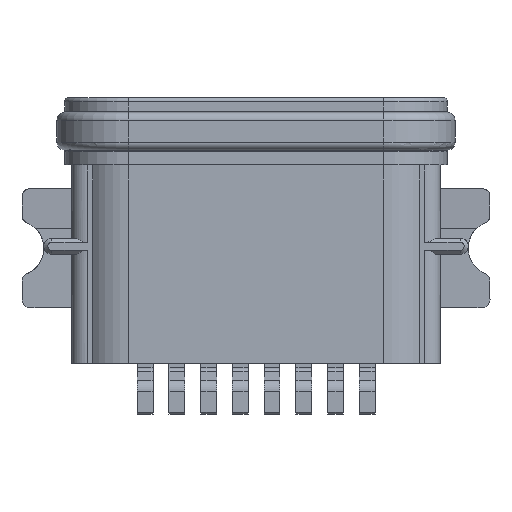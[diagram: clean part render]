
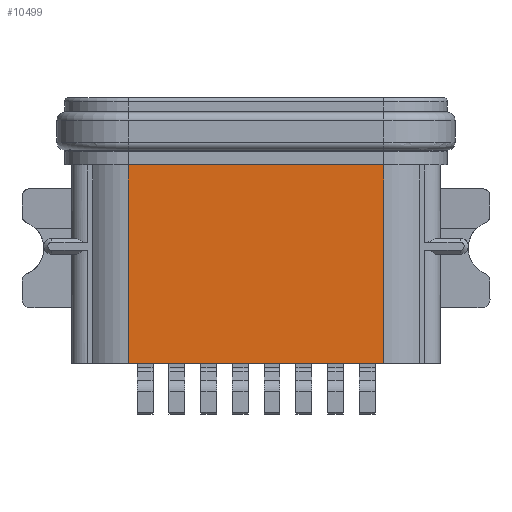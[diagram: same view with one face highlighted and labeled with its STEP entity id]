
A CAD part, front view. The second image highlights one B-rep face of the part: STEP entity #10499.
In plain terms, the highlighted planar face has unit normal (0, -1, 0).
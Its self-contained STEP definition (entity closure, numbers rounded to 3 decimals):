
#233 = DIRECTION ( 'NONE',  ( 0., 0., -1. ) ) ;
#577 = ORIENTED_EDGE ( 'NONE', *, *, #16668, .F. ) ;
#1282 = DIRECTION ( 'NONE',  ( -1., 0., 0. ) ) ;
#3904 = CARTESIAN_POINT ( 'NONE',  ( -187.841, -32.397, 67.112 ) ) ;
#5528 = VECTOR ( 'NONE', #1282, 1000. ) ;
#6222 = CARTESIAN_POINT ( 'NONE',  ( -181.273, -32.397, 72.192 ) ) ;
#6332 = EDGE_CURVE ( 'NONE', #8173, #21223, #24612, .T. ) ;
#6354 = EDGE_CURVE ( 'NONE', #32179, #27319, #29899, .T. ) ;
#7061 = DIRECTION ( 'NONE',  ( 1., 0., 0. ) ) ;
#7165 = EDGE_LOOP ( 'NONE', ( #9561, #577, #20350, #13648 ) ) ;
#7757 = EDGE_CURVE ( 'NONE', #8173, #27319, #28130, .T. ) ;
#8173 = VERTEX_POINT ( 'NONE', #19972 ) ;
#9561 = ORIENTED_EDGE ( 'NONE', *, *, #6354, .F. ) ;
#9765 = LINE ( 'NONE', #15070, #23789 ) ;
#10499 = ADVANCED_FACE ( 'NONE', ( #28786 ), #28099, .F. ) ;
#13648 = ORIENTED_EDGE ( 'NONE', *, *, #7757, .T. ) ;
#14007 = DIRECTION ( 'NONE',  ( 0., 0., 1. ) ) ;
#14672 = DIRECTION ( 'NONE',  ( 0., 1., 0. ) ) ;
#14703 = CARTESIAN_POINT ( 'NONE',  ( -181.273, -32.397, 72.192 ) ) ;
#15070 = CARTESIAN_POINT ( 'NONE',  ( -181.273, -32.397, 67.192 ) ) ;
#15247 = DIRECTION ( 'NONE',  ( -1., 0., 0. ) ) ;
#16668 = EDGE_CURVE ( 'NONE', #21223, #32179, #9765, .T. ) ;
#19972 = CARTESIAN_POINT ( 'NONE',  ( -181.273, -32.397, 72.192 ) ) ;
#20350 = ORIENTED_EDGE ( 'NONE', *, *, #6332, .F. ) ;
#21223 = VERTEX_POINT ( 'NONE', #25703 ) ;
#21969 = CARTESIAN_POINT ( 'NONE',  ( -187.713, -32.397, 67.192 ) ) ;
#22455 = CARTESIAN_POINT ( 'NONE',  ( -187.713, -32.397, 72.192 ) ) ;
#23789 = VECTOR ( 'NONE', #15247, 1000. ) ;
#24119 = AXIS2_PLACEMENT_3D ( 'NONE', #3904, #14672, #7061 ) ;
#24612 = LINE ( 'NONE', #6222, #31502 ) ;
#25035 = CARTESIAN_POINT ( 'NONE',  ( -187.713, -32.397, 67.192 ) ) ;
#25703 = CARTESIAN_POINT ( 'NONE',  ( -181.273, -32.397, 67.192 ) ) ;
#27319 = VERTEX_POINT ( 'NONE', #22455 ) ;
#28099 = PLANE ( 'NONE',  #24119 ) ;
#28130 = LINE ( 'NONE', #14703, #5528 ) ;
#28786 = FACE_OUTER_BOUND ( 'NONE', #7165, .T. ) ;
#29899 = LINE ( 'NONE', #21969, #33762 ) ;
#31502 = VECTOR ( 'NONE', #233, 1000. ) ;
#32179 = VERTEX_POINT ( 'NONE', #25035 ) ;
#33762 = VECTOR ( 'NONE', #14007, 1000. ) ;
